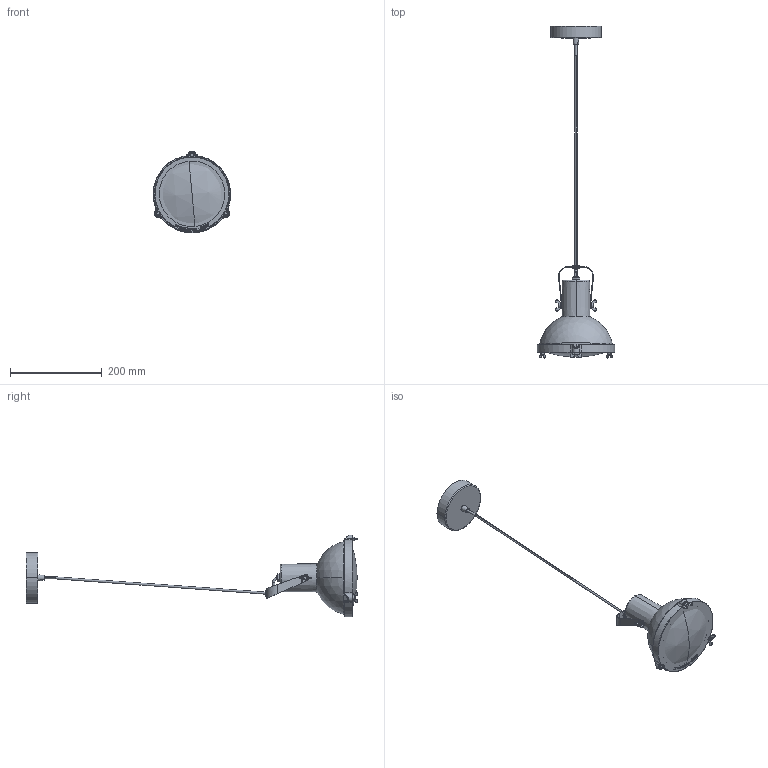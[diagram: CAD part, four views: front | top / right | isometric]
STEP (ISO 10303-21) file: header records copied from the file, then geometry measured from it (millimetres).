
FILE_DESCRIPTION (( 'STEP AP214' ), '1' );
FILE_NAME ('3D_PROJECTEUR165_PENDANT.STEP', '2018-02-26T09:39:15', ( 'Utente' ), ( '' ), 'SwSTEP 2.0', 'SolidWorks 2016', '' );
FILE_SCHEMA (( 'AUTOMOTIVE_DESIGN' ));
Length unit declared in the file: millimetre
Products named in the file (6): Group5^3D_PROJECTEUR165_PENDANT; Group4^3D_PROJECTEUR165_PENDANT; Group3^3D_PROJECTEUR165_PENDANT; Group2^3D_PROJECTEUR165_PENDANT; Group1^3D_PROJECTEUR165_PENDANT; 3D_PROJECTEUR165_PENDANT
Assembly tree (5 placements, depth 2):
  3D_PROJECTEUR165_PENDANT
    Group1^3D_PROJECTEUR165_PENDANT
    Group2^3D_PROJECTEUR165_PENDANT
    Group3^3D_PROJECTEUR165_PENDANT
    Group4^3D_PROJECTEUR165_PENDANT
    Group5^3D_PROJECTEUR165_PENDANT
Bounding box: 169 x 723.78 x 177.92 mm (x, y, z)
Volume: 1724793 mm3; surface area: 182573.1 mm2
Topology: 10 solids, 10 shells, 851 faces, 2166 edges, 1352 vertices
Faces by surface type: plane 371, cylinder 164, bspline 136, torus 126, cone 28, sphere 26
Entity records: 29128 total; most frequent: CARTESIAN_POINT 8565, ORIENTED_EDGE 4312, DIRECTION 3937, EDGE_CURVE 2156, AXIS2_PLACEMENT_3D 1400, VERTEX_POINT 1352, VECTOR 1137, LINE 1137
